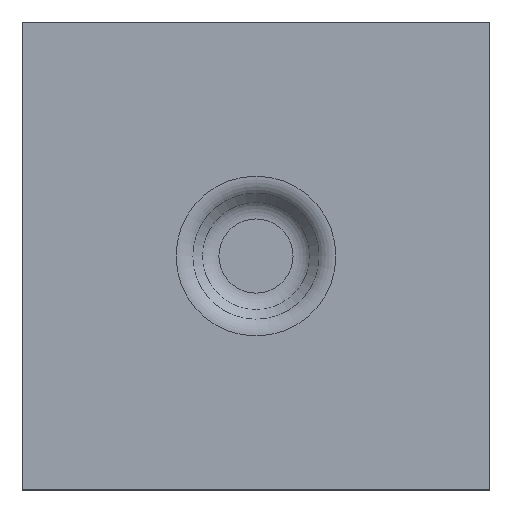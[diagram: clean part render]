
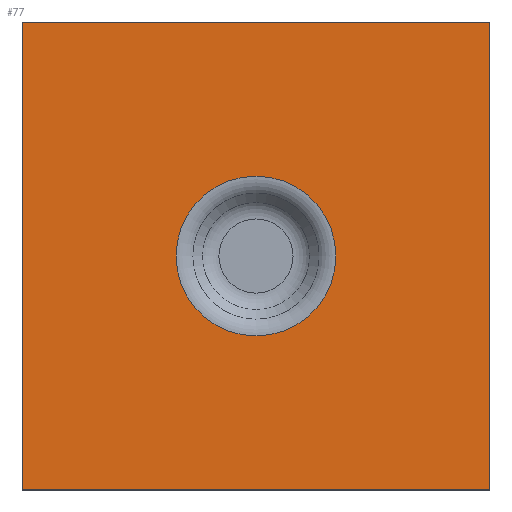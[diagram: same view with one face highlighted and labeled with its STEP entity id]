
A CAD part, top view. The second image highlights one B-rep face of the part: STEP entity #77.
In plain terms, the highlighted planar face has unit normal (0, 0, 1).
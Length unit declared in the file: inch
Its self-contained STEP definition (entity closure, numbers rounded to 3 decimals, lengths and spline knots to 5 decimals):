
#77=ADVANCED_FACE('',(#95,#96),#97,.T.);
#95=FACE_OUTER_BOUND('',#132,.T.);
#96=FACE_BOUND('',#133,.T.);
#97=PLANE('',#134);
#132=EDGE_LOOP('',(#247,#248,#249,#250));
#133=EDGE_LOOP('',(#251));
#134=AXIS2_PLACEMENT_3D('',#252,#253,#254);
#247=ORIENTED_EDGE('',*,*,#323,.T.);
#248=ORIENTED_EDGE('',*,*,#327,.T.);
#249=ORIENTED_EDGE('',*,*,#328,.F.);
#250=ORIENTED_EDGE('',*,*,#324,.T.);
#251=ORIENTED_EDGE('',*,*,#329,.T.);
#252=CARTESIAN_POINT('',(14.35578,0.0,0.08));
#253=DIRECTION('',(0.,-0.0,1.0));
#254=DIRECTION('',(1.0,0.0,0.));
#323=EDGE_CURVE('',#345,#349,#351,.T.);
#324=EDGE_CURVE('',#352,#345,#353,.T.);
#327=EDGE_CURVE('',#349,#357,#358,.T.);
#328=EDGE_CURVE('',#352,#357,#359,.T.);
#329=EDGE_CURVE('',#360,#360,#361,.T.);
#345=VERTEX_POINT('',#387);
#349=VERTEX_POINT('',#393);
#351=LINE('',#396,#397);
#352=VERTEX_POINT('',#398);
#353=LINE('',#399,#400);
#357=VERTEX_POINT('',#406);
#358=LINE('',#407,#408);
#359=LINE('',#409,#410);
#360=VERTEX_POINT('',#411);
#361=CIRCLE('',#412,0.34142);
#387=CARTESIAN_POINT('',(7.17789,-6.62352,0.08));
#393=CARTESIAN_POINT('',(5.17778,-6.62352,0.08));
#396=CARTESIAN_POINT('',(9.20424,-6.62352,0.08));
#397=VECTOR('',#443,1.0);
#398=CARTESIAN_POINT('',(7.17789,-8.624,0.08));
#399=CARTESIAN_POINT('',(7.17789,0.44703,0.08));
#400=VECTOR('',#444,1.0);
#406=CARTESIAN_POINT('',(5.17778,-8.624,0.08));
#407=CARTESIAN_POINT('',(5.17778,0.51665,0.08));
#408=VECTOR('',#447,1.0);
#409=CARTESIAN_POINT('',(22.33078,-8.624,0.08));
#410=VECTOR('',#448,17.49);
#411=CARTESIAN_POINT('',(6.17778,-7.96542,0.08));
#412=AXIS2_PLACEMENT_3D('',#449,#450,#451);
#443=DIRECTION('',(-1.0,0.0,0.));
#444=DIRECTION('',(0.0,1.0,0.0));
#447=DIRECTION('',(-0.0,-1.0,0.0));
#448=DIRECTION('',(-1.0,0.0,0.));
#449=CARTESIAN_POINT('',(6.17778,-7.624,0.08));
#450=DIRECTION('',(0.,0.0,-1.0));
#451=DIRECTION('',(0.0,1.0,0.0));
